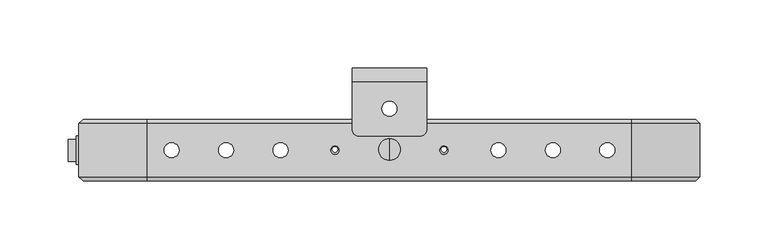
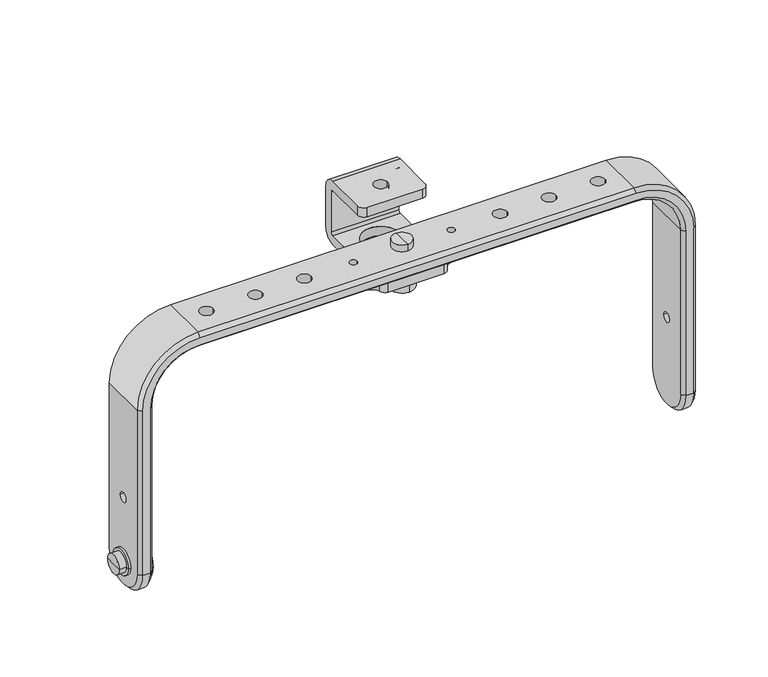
"""IFC4 building model written with IfcOpenShell, lengths in millimetres: proxy geometry, ePS8-HBRK425-CHM : ePS8-HBRK425-CHM."""

from ifc_helpers import new_model, si_unit, point, frame, origin, place, context, project, spatial, polyline, circle_curve, ellipse_curve, trimmed, source, transform, mapped, element, save
from ifc_brep_helpers import plane_surface, cylinder_surface, revolved_surface, advanced_brep


def generic_models_2b0026ec(model_context):
    return source(origin(), model_context, "Body", "AdvancedBrep", [
        advanced_brep(
        [(-216.0, -12.057585, -227.0012591), (-216.0, -48.942415, -227.0012591), (-216.0, -34.5553577, -227.0012591), (-216.0, -26.4446423, -227.0012591), (-213.0, -15.057585, -227.0012591), (-213.0, -45.942415, -227.0012591), (-213.0, -26.4446423, -227.0012591), (-213.0, -34.5553577, -227.0012591), (-212.0, -26.4446423, -227.0012591), (-212.0, -34.5553577, -227.0012591), (-212.0, -30.5, -227.0012591), (-236.0, -22.4249697, -227.0012591), (-236.0, -38.5750303, -227.0012591), (-236.0, -30.5, -227.0012591), (-230.0, -22.4249697, -227.0012591), (-230.0, -38.5750303, -227.0012591), (-230.0, -19.944078, -227.0012591), (-230.0, -41.055922, -227.0012591), (-228.0, -19.944078, -227.0012591), (-228.0, -41.055922, -227.0012591), (-228.0, -26.4446423, -227.0012591), (-228.0, -34.5553577, -227.0012591)],
        [
            (0, 1, circle_curve(frame((-216.0, -30.5, -227.0012591), z_axis=(-1.0, 0.0, 0.0), x_axis=(0.0, -1.0, 0.0)), 18.442415)),
            (1, 2),
            (2, 3, circle_curve(frame((-216.0, -30.5, -227.0012591), z_axis=(1.0, 0.0, 0.0), x_axis=(0.0, -1.0, 0.0)), 4.0553577)),
            (3, 0),
            (1, 0, circle_curve(frame((-216.0, -30.5, -227.0012591), z_axis=(-1.0, 0.0, 0.0), x_axis=(0.0, -1.0, 0.0)), 18.442415)),
            (3, 2, circle_curve(frame((-216.0, -30.5, -227.0012591), z_axis=(1.0, 0.0, 0.0), x_axis=(0.0, -1.0, 0.0)), 4.0553577)),
            (4, 5, circle_curve(frame((-213.0, -30.5, -227.0012591), z_axis=(-1.0, 0.0, 0.0), x_axis=(0.0, -1.0, 0.0)), 15.442415)),
            (5, 1, circle_curve(frame((-216.0, -45.942415, -227.0012591), z_axis=(0.0, 0.0, -1.0), x_axis=(1.0, 0.0, 0.0)), 3.0)),
            (0, 4, circle_curve(frame((-216.0, -15.057585, -227.0012591), z_axis=(0.0, 0.0, -1.0), x_axis=(1.0, 0.0, 0.0)), 3.0)),
            (5, 4, circle_curve(frame((-213.0, -30.5, -227.0012591), z_axis=(-1.0, 0.0, 0.0), x_axis=(0.0, -1.0, 0.0)), 15.442415)),
            (6, 7, circle_curve(frame((-213.0, -30.5, -227.0012591), z_axis=(-1.0, 0.0, 0.0), x_axis=(0.0, -1.0, 0.0)), 4.0553577)),
            (7, 5),
            (4, 6),
            (7, 6, circle_curve(frame((-213.0, -30.5, -227.0012591), z_axis=(-1.0, 0.0, 0.0), x_axis=(0.0, -1.0, 0.0)), 4.0553577)),
            (8, 9, circle_curve(frame((-212.0, -30.5, -227.0012591), z_axis=(-1.0, 0.0, 0.0), x_axis=(0.0, -1.0, 0.0)), 4.0553577)),
            (9, 7),
            (6, 8),
            (9, 8, circle_curve(frame((-212.0, -30.5, -227.0012591), z_axis=(-1.0, 0.0, 0.0), x_axis=(0.0, -1.0, 0.0)), 4.0553577)),
            (10, 9),
            (8, 10),
            (11, 12, circle_curve(frame((-236.0, -30.5, -227.0012591), z_axis=(-1.0, 0.0, 0.0), x_axis=(0.0, -1.0, 0.0)), 8.0750303)),
            (12, 13),
            (13, 11),
            (12, 11, circle_curve(frame((-236.0, -30.5, -227.0012591), z_axis=(-1.0, 0.0, 0.0), x_axis=(0.0, -1.0, 0.0)), 8.0750303)),
            (14, 15, circle_curve(frame((-230.0, -30.5, -227.0012591), z_axis=(-1.0, 0.0, 0.0), x_axis=(0.0, -1.0, 0.0)), 8.0750303)),
            (15, 12),
            (11, 14),
            (15, 14, circle_curve(frame((-230.0, -30.5, -227.0012591), z_axis=(-1.0, 0.0, 0.0), x_axis=(0.0, -1.0, 0.0)), 8.0750303)),
            (16, 17, circle_curve(frame((-230.0, -30.5, -227.0012591), z_axis=(-1.0, 0.0, 0.0), x_axis=(0.0, -1.0, 0.0)), 10.555922)),
            (17, 15),
            (14, 16),
            (17, 16, circle_curve(frame((-230.0, -30.5, -227.0012591), z_axis=(-1.0, 0.0, 0.0), x_axis=(0.0, -1.0, 0.0)), 10.555922)),
            (18, 19, circle_curve(frame((-228.0, -30.5, -227.0012591), z_axis=(-1.0, 0.0, 0.0), x_axis=(0.0, -1.0, 0.0)), 10.555922)),
            (19, 17),
            (16, 18),
            (19, 18, circle_curve(frame((-228.0, -30.5, -227.0012591), z_axis=(-1.0, 0.0, 0.0), x_axis=(0.0, -1.0, 0.0)), 10.555922)),
            (20, 21, circle_curve(frame((-228.0, -30.5, -227.0012591), z_axis=(-1.0, 0.0, 0.0), x_axis=(0.0, -1.0, 0.0)), 4.0553577)),
            (21, 19),
            (18, 20),
            (21, 20, circle_curve(frame((-228.0, -30.5, -227.0012591), z_axis=(-1.0, 0.0, 0.0), x_axis=(0.0, -1.0, 0.0)), 4.0553577)),
            (2, 21),
            (20, 3),
        ],
        [
            plane_surface(frame((-216.0, -30.5, -227.0012591), z_axis=(-1.0, 0.0, 0.0), x_axis=(0.0, -1.0, 0.0))),
            revolved_surface(trimmed(ellipse_curve(frame((-216.0, -45.942415, -227.0012591), z_axis=(0.0, 0.0, 1.0), x_axis=(1.0, 0.0, 0.0)), 3.0, 3.0), [point((-216.0, -48.942415, -227.0012591))], [point((-213.0, -45.942415, -227.0012591))], True, "CARTESIAN"), (-203.2578639, -30.5, -227.0012591), (1.0, 0.0, 0.0)),
            plane_surface(frame((-213.0, -30.5, -227.0012591), z_axis=(1.0, 0.0, 0.0), x_axis=(0.0, -1.0, 0.0))),
            cylinder_surface(frame((-203.2578639, -30.5, -227.0012591), z_axis=(1.0, 0.0, 0.0), x_axis=(0.0, -1.0, 0.0)), 4.0553577),
            plane_surface(frame((-212.0, -30.5, -227.0012591), z_axis=(1.0, 0.0, 0.0), x_axis=(0.0, -1.0, 0.0))),
            plane_surface(frame((-236.0, -30.5, -227.0012591), z_axis=(-1.0, 0.0, 0.0), x_axis=(0.0, -1.0, 0.0))),
            cylinder_surface(frame((-203.2578639, -30.5, -227.0012591), z_axis=(1.0, 0.0, 0.0), x_axis=(0.0, -1.0, 0.0)), 8.0750303),
            plane_surface(frame((-230.0, -30.5, -227.0012591), z_axis=(-1.0, 0.0, 0.0), x_axis=(0.0, -1.0, 0.0))),
            cylinder_surface(frame((-203.2578639, -30.5, -227.0012591), z_axis=(1.0, 0.0, 0.0), x_axis=(0.0, -1.0, 0.0)), 10.555922),
            plane_surface(frame((-228.0, -30.5, -227.0012591), z_axis=(1.0, 0.0, 0.0), x_axis=(0.0, -1.0, 0.0))),
        ],
        [
            (0, [[1, 2, 3, 4]]),
            (0, [[5, -4, 6, -2]]),
            (1, [[7, 8, -1, 9]]),
            (1, [[10, -9, -5, -8]]),
            (2, [[11, 12, -7, 13]]),
            (2, [[14, -13, -10, -12]]),
            (3, [[15, 16, -11, 17]]),
            (3, [[18, -17, -14, -16]]),
            (4, [[19, -15, 20]]),
            (4, [[-20, -18, -19]]),
            (5, [[21, 22, 23]]),
            (5, [[24, -23, -22]]),
            (6, [[25, 26, -21, 27]]),
            (6, [[28, -27, -24, -26]]),
            (7, [[29, 30, -25, 31]]),
            (7, [[32, -31, -28, -30]]),
            (8, [[33, 34, -29, 35]]),
            (8, [[36, -35, -32, -34]]),
            (9, [[37, 38, -33, 39]]),
            (9, [[40, -39, -36, -38]]),
            (3, [[-3, 41, -37, 42]]),
            (3, [[-6, -42, -40, -41]]),
        ],
    ),
        advanced_brep(
        [(228.0, -10.9281655, -227.0012591), (228.0, -10.9281655, -85.0), (228.0, -50.0718345, -85.0), (228.0, -50.0718345, -227.0012591), (228.0, -26.5, -172.0012591), (228.0, -34.5, -172.0012591), (225.0, -53.0718345, -85.0), (225.0, -53.0718345, -227.0012591), (178.0, -53.0718345, -38.0), (-178.0, -53.0718345, -38.0), (-225.0, -53.0718345, -85.0), (-225.0, -53.0718345, -227.0012591), (-219.0, -53.0718345, -227.0012591), (-219.0, -53.0718345, -85.0), (-178.0, -53.0718345, -44.0), (178.0, -53.0718345, -44.0), (219.0, -53.0718345, -85.0), (219.0, -53.0718345, -227.0012591), (216.0, -50.0718345, -85.0), (216.0, -50.0718345, -227.0012591), (216.0, -10.9281655, -85.0), (216.0, -10.9281655, -227.0012591), (216.0, -34.5, -172.0012591), (216.0, -26.5, -172.0012591), (178.0, -10.9281655, -35.0), (178.0, -50.0718345, -35.0), (178.0, -50.0718345, -47.0), (178.0, -10.9281655, -47.0), (-178.0, -10.9281655, -35.0), (-178.0, -50.0718345, -35.0), (5.5, -30.5, -35.0), (-5.5, -30.5, -35.0), (-154.5, -30.5, -35.0), (-165.5, -30.5, -35.0), (-37.0, -30.5, -35.0), (-43.0, -30.5, -35.0), (-114.5, -30.5, -35.0), (-125.5, -30.5, -35.0), (-74.5, -30.5, -35.0), (-85.5, -30.5, -35.0), (154.5, -30.5, -35.0), (165.5, -30.5, -35.0), (37.0, -30.5, -35.0), (43.0, -30.5, -35.0), (114.5, -30.5, -35.0), (125.5, -30.5, -35.0), (74.5, -30.5, -35.0), (85.5, -30.5, -35.0), (-178.0, -50.0718345, -47.0), (-178.0, -10.9281655, -47.0), (-5.5, -30.5, -47.0), (5.5, -30.5, -47.0), (-165.5, -30.5, -47.0), (-154.5, -30.5, -47.0), (-43.0, -30.5, -47.0), (-37.0, -30.5, -47.0), (-125.5, -30.5, -47.0), (-114.5, -30.5, -47.0), (-85.5, -30.5, -47.0), (-74.5, -30.5, -47.0), (165.5, -30.5, -47.0), (154.5, -30.5, -47.0), (43.0, -30.5, -47.0), (37.0, -30.5, -47.0), (125.5, -30.5, -47.0), (114.5, -30.5, -47.0), (85.5, -30.5, -47.0), (74.5, -30.5, -47.0), (-228.0, -10.9281655, -85.0), (-228.0, -50.0718345, -85.0), (-216.0, -50.0718345, -85.0), (-216.0, -10.9281655, -85.0), (-228.0, -10.9281655, -227.0012591), (-228.0, -50.0718345, -227.0012591), (-228.0, -34.5, -172.0012591), (-228.0, -26.5, -172.0012591), (-216.0, -50.0718345, -227.0012591), (-216.0, -10.9281655, -227.0012591), (-216.0, -26.5, -172.0012591), (-216.0, -34.5, -172.0012591), (219.0, -7.9281655, -85.0), (219.0, -7.9281655, -227.0012591), (178.0, -7.9281655, -44.0), (-178.0, -7.9281655, -44.0), (-219.0, -7.9281655, -85.0), (-219.0, -7.9281655, -227.0012591), (-225.0, -7.9281655, -227.0012591), (-225.0, -7.9281655, -85.0), (-178.0, -7.9281655, -38.0), (178.0, -7.9281655, -38.0), (225.0, -7.9281655, -85.0), (225.0, -7.9281655, -227.0012591)],
        [
            (0, 1),
            (1, 2),
            (2, 3),
            (3, 0, circle_curve(frame((228.0, -30.5, -227.0012591), z_axis=(1.0, 0.0, 0.0), x_axis=(0.0, -1.0, 0.0)), 19.5718345)),
            (4, 5, circle_curve(frame((228.0, -30.5, -172.0012591), z_axis=(-1.0, 0.0, 0.0), x_axis=(0.0, 1.0, 0.0)), 4.0)),
            (5, 4, circle_curve(frame((228.0, -30.5, -172.0012591), z_axis=(-1.0, 0.0, 0.0), x_axis=(0.0, 1.0, 0.0)), 4.0)),
            (2, 6),
            (6, 7),
            (7, 3),
            (6, 8, circle_curve(frame((178.0, -53.0718345, -85.0), z_axis=(0.0, -1.0, 0.0), x_axis=(1.0, 0.0, 0.0)), 47.0)),
            (8, 9),
            (9, 10, circle_curve(frame((-178.0, -53.0718345, -85.0), z_axis=(0.0, -1.0, 0.0), x_axis=(0.0, 0.0, 1.0)), 47.0)),
            (10, 11),
            (11, 12),
            (12, 13),
            (13, 14, circle_curve(frame((-178.0, -53.0718345, -85.0), z_axis=(0.0, 1.0, 0.0), x_axis=(0.0, 0.0, 1.0)), 41.0)),
            (14, 15),
            (15, 16, circle_curve(frame((178.0, -53.0718345, -85.0), z_axis=(0.0, 1.0, 0.0), x_axis=(1.0, 0.0, 0.0)), 41.0)),
            (16, 17),
            (17, 7),
            (16, 18),
            (18, 19),
            (19, 17),
            (18, 20),
            (20, 21),
            (21, 19, circle_curve(frame((216.0, -30.5, -227.0012591), z_axis=(-1.0, 0.0, 0.0), x_axis=(0.0, -1.0, 0.0)), 19.5718345)),
            (22, 23, circle_curve(frame((216.0, -30.5, -172.0012591), z_axis=(1.0, 0.0, 0.0), x_axis=(0.0, 1.0, 0.0)), 4.0)),
            (23, 22, circle_curve(frame((216.0, -30.5, -172.0012591), z_axis=(1.0, 0.0, 0.0), x_axis=(0.0, 1.0, 0.0)), 4.0)),
            (1, 24, circle_curve(frame((178.0, -10.9281655, -85.0), z_axis=(0.0, -1.0, 0.0), x_axis=(1.0, 0.0, 0.0)), 50.0)),
            (24, 25),
            (25, 2, circle_curve(frame((178.0, -50.0718345, -85.0), z_axis=(0.0, 1.0, 0.0), x_axis=(1.0, 0.0, 0.0)), 50.0)),
            (25, 8),
            (15, 26),
            (26, 18, circle_curve(frame((178.0, -50.0718345, -85.0), z_axis=(0.0, 1.0, 0.0), x_axis=(1.0, 0.0, 0.0)), 38.0)),
            (26, 27),
            (27, 20, circle_curve(frame((178.0, -10.9281655, -85.0), z_axis=(0.0, 1.0, 0.0), x_axis=(1.0, 0.0, 0.0)), 38.0)),
            (24, 28),
            (28, 29),
            (29, 25),
            (30, 31, circle_curve(frame((0.0, -30.5, -35.0), z_axis=(0.0, 0.0, -1.0), x_axis=(1.0, 0.0, 0.0)), 5.5)),
            (31, 30, circle_curve(frame((0.0, -30.5, -35.0), z_axis=(0.0, 0.0, -1.0), x_axis=(1.0, 0.0, 0.0)), 5.5)),
            (32, 33, circle_curve(frame((-160.0, -30.5, -35.0), z_axis=(0.0, 0.0, -1.0), x_axis=(1.0, 0.0, 0.0)), 5.5)),
            (33, 32, circle_curve(frame((-160.0, -30.5, -35.0), z_axis=(0.0, 0.0, -1.0), x_axis=(1.0, 0.0, 0.0)), 5.5)),
            (34, 35, circle_curve(frame((-40.0, -30.5, -35.0), z_axis=(0.0, 0.0, -1.0), x_axis=(1.0, 0.0, 0.0)), 3.0)),
            (35, 34, circle_curve(frame((-40.0, -30.5, -35.0), z_axis=(0.0, 0.0, -1.0), x_axis=(1.0, 0.0, 0.0)), 3.0)),
            (36, 37, circle_curve(frame((-120.0, -30.5, -35.0), z_axis=(0.0, 0.0, -1.0), x_axis=(1.0, 0.0, 0.0)), 5.5)),
            (37, 36, circle_curve(frame((-120.0, -30.5, -35.0), z_axis=(0.0, 0.0, -1.0), x_axis=(1.0, 0.0, 0.0)), 5.5)),
            (38, 39, circle_curve(frame((-80.0, -30.5, -35.0), z_axis=(0.0, 0.0, -1.0), x_axis=(1.0, 0.0, 0.0)), 5.5)),
            (39, 38, circle_curve(frame((-80.0, -30.5, -35.0), z_axis=(0.0, 0.0, -1.0), x_axis=(1.0, 0.0, 0.0)), 5.5)),
            (40, 41, circle_curve(frame((160.0, -30.5, -35.0), z_axis=(0.0, 0.0, -1.0), x_axis=(-1.0, 0.0, 0.0)), 5.5)),
            (41, 40, circle_curve(frame((160.0, -30.5, -35.0), z_axis=(0.0, 0.0, -1.0), x_axis=(-1.0, 0.0, 0.0)), 5.5)),
            (42, 43, circle_curve(frame((40.0, -30.5, -35.0), z_axis=(0.0, 0.0, -1.0), x_axis=(-1.0, 0.0, 0.0)), 3.0)),
            (43, 42, circle_curve(frame((40.0, -30.5, -35.0), z_axis=(0.0, 0.0, -1.0), x_axis=(-1.0, 0.0, 0.0)), 3.0)),
            (44, 45, circle_curve(frame((120.0, -30.5, -35.0), z_axis=(0.0, 0.0, -1.0), x_axis=(-1.0, 0.0, 0.0)), 5.5)),
            (45, 44, circle_curve(frame((120.0, -30.5, -35.0), z_axis=(0.0, 0.0, -1.0), x_axis=(-1.0, 0.0, 0.0)), 5.5)),
            (46, 47, circle_curve(frame((80.0, -30.5, -35.0), z_axis=(0.0, 0.0, -1.0), x_axis=(-1.0, 0.0, 0.0)), 5.5)),
            (47, 46, circle_curve(frame((80.0, -30.5, -35.0), z_axis=(0.0, 0.0, -1.0), x_axis=(-1.0, 0.0, 0.0)), 5.5)),
            (29, 9),
            (14, 48),
            (48, 26),
            (48, 49),
            (49, 27),
            (50, 51, circle_curve(frame((0.0, -30.5, -47.0), z_axis=(0.0, 0.0, 1.0), x_axis=(1.0, 0.0, 0.0)), 5.5)),
            (51, 50, circle_curve(frame((0.0, -30.5, -47.0), z_axis=(0.0, 0.0, 1.0), x_axis=(1.0, 0.0, 0.0)), 5.5)),
            (52, 53, circle_curve(frame((-160.0, -30.5, -47.0), z_axis=(0.0, 0.0, 1.0), x_axis=(1.0, 0.0, 0.0)), 5.5)),
            (53, 52, circle_curve(frame((-160.0, -30.5, -47.0), z_axis=(0.0, 0.0, 1.0), x_axis=(1.0, 0.0, 0.0)), 5.5)),
            (54, 55, circle_curve(frame((-40.0, -30.5, -47.0), z_axis=(0.0, 0.0, 1.0), x_axis=(1.0, 0.0, 0.0)), 3.0)),
            (55, 54, circle_curve(frame((-40.0, -30.5, -47.0), z_axis=(0.0, 0.0, 1.0), x_axis=(1.0, 0.0, 0.0)), 3.0)),
            (56, 57, circle_curve(frame((-120.0, -30.5, -47.0), z_axis=(0.0, 0.0, 1.0), x_axis=(1.0, 0.0, 0.0)), 5.5)),
            (57, 56, circle_curve(frame((-120.0, -30.5, -47.0), z_axis=(0.0, 0.0, 1.0), x_axis=(1.0, 0.0, 0.0)), 5.5)),
            (58, 59, circle_curve(frame((-80.0, -30.5, -47.0), z_axis=(0.0, 0.0, 1.0), x_axis=(1.0, 0.0, 0.0)), 5.5)),
            (59, 58, circle_curve(frame((-80.0, -30.5, -47.0), z_axis=(0.0, 0.0, 1.0), x_axis=(1.0, 0.0, 0.0)), 5.5)),
            (60, 61, circle_curve(frame((160.0, -30.5, -47.0), z_axis=(0.0, 0.0, 1.0), x_axis=(-1.0, 0.0, 0.0)), 5.5)),
            (61, 60, circle_curve(frame((160.0, -30.5, -47.0), z_axis=(0.0, 0.0, 1.0), x_axis=(-1.0, 0.0, 0.0)), 5.5)),
            (62, 63, circle_curve(frame((40.0, -30.5, -47.0), z_axis=(0.0, 0.0, 1.0), x_axis=(-1.0, 0.0, 0.0)), 3.0)),
            (63, 62, circle_curve(frame((40.0, -30.5, -47.0), z_axis=(0.0, 0.0, 1.0), x_axis=(-1.0, 0.0, 0.0)), 3.0)),
            (64, 65, circle_curve(frame((120.0, -30.5, -47.0), z_axis=(0.0, 0.0, 1.0), x_axis=(-1.0, 0.0, 0.0)), 5.5)),
            (65, 64, circle_curve(frame((120.0, -30.5, -47.0), z_axis=(0.0, 0.0, 1.0), x_axis=(-1.0, 0.0, 0.0)), 5.5)),
            (66, 67, circle_curve(frame((80.0, -30.5, -47.0), z_axis=(0.0, 0.0, 1.0), x_axis=(-1.0, 0.0, 0.0)), 5.5)),
            (67, 66, circle_curve(frame((80.0, -30.5, -47.0), z_axis=(0.0, 0.0, 1.0), x_axis=(-1.0, 0.0, 0.0)), 5.5)),
            (28, 68, circle_curve(frame((-178.0, -10.9281655, -85.0), z_axis=(0.0, -1.0, 0.0), x_axis=(0.0, 0.0, 1.0)), 50.0)),
            (68, 69),
            (69, 29, circle_curve(frame((-178.0, -50.0718345, -85.0), z_axis=(0.0, 1.0, 0.0), x_axis=(0.0, 0.0, 1.0)), 50.0)),
            (69, 10),
            (13, 70),
            (70, 48, circle_curve(frame((-178.0, -50.0718345, -85.0), z_axis=(0.0, 1.0, 0.0), x_axis=(0.0, 0.0, 1.0)), 38.0)),
            (70, 71),
            (71, 49, circle_curve(frame((-178.0, -10.9281655, -85.0), z_axis=(0.0, 1.0, 0.0), x_axis=(0.0, 0.0, 1.0)), 38.0)),
            (68, 72),
            (72, 73, circle_curve(frame((-228.0, -30.5, -227.0012591), z_axis=(-1.0, 0.0, 0.0), x_axis=(0.0, -1.0, 0.0)), 19.5718345)),
            (73, 69),
            (74, 75, circle_curve(frame((-228.0, -30.5, -172.0012591), z_axis=(1.0, 0.0, 0.0), x_axis=(0.0, 1.0, 0.0)), 4.0)),
            (75, 74, circle_curve(frame((-228.0, -30.5, -172.0012591), z_axis=(1.0, 0.0, 0.0), x_axis=(0.0, 1.0, 0.0)), 4.0)),
            (73, 11),
            (12, 76),
            (76, 70),
            (76, 77, circle_curve(frame((-216.0, -30.5, -227.0012591), z_axis=(1.0, 0.0, 0.0), x_axis=(0.0, -1.0, 0.0)), 19.5718345)),
            (77, 71),
            (78, 79, circle_curve(frame((-216.0, -30.5, -172.0012591), z_axis=(-1.0, 0.0, 0.0), x_axis=(0.0, 1.0, 0.0)), 4.0)),
            (79, 78, circle_curve(frame((-216.0, -30.5, -172.0012591), z_axis=(-1.0, 0.0, 0.0), x_axis=(0.0, 1.0, 0.0)), 4.0)),
            (20, 80),
            (80, 81),
            (81, 21),
            (80, 82, circle_curve(frame((178.0, -7.9281655, -85.0), z_axis=(0.0, -1.0, 0.0), x_axis=(1.0, 0.0, 0.0)), 41.0)),
            (82, 83),
            (83, 84, circle_curve(frame((-178.0, -7.9281655, -85.0), z_axis=(0.0, -1.0, 0.0), x_axis=(0.0, 0.0, 1.0)), 41.0)),
            (84, 85),
            (85, 86),
            (86, 87),
            (87, 88, circle_curve(frame((-178.0, -7.9281655, -85.0), z_axis=(0.0, 1.0, 0.0), x_axis=(0.0, 0.0, 1.0)), 47.0)),
            (88, 89),
            (89, 90, circle_curve(frame((178.0, -7.9281655, -85.0), z_axis=(0.0, 1.0, 0.0), x_axis=(1.0, 0.0, 0.0)), 47.0)),
            (90, 91),
            (91, 81),
            (0, 91),
            (90, 1),
            (27, 82),
            (89, 24),
            (49, 83),
            (88, 28),
            (71, 84),
            (87, 68),
            (77, 85),
            (86, 72),
            (85, 12, circle_curve(frame((-219.0, -30.5, -227.0012591), z_axis=(-1.0, 0.0, 0.0), x_axis=(0.0, -1.0, 0.0)), 22.5718345)),
            (11, 86, circle_curve(frame((-225.0, -30.5, -227.0012591), z_axis=(1.0, 0.0, 0.0), x_axis=(0.0, -1.0, 0.0)), 22.5718345)),
            (91, 7, circle_curve(frame((225.0, -30.5, -227.0012591), z_axis=(-1.0, 0.0, 0.0), x_axis=(0.0, -1.0, 0.0)), 22.5718345)),
            (17, 81, circle_curve(frame((219.0, -30.5, -227.0012591), z_axis=(1.0, 0.0, 0.0), x_axis=(0.0, -1.0, 0.0)), 22.5718345)),
            (50, 31),
            (30, 51),
            (52, 33),
            (32, 53),
            (54, 35),
            (34, 55),
            (56, 37),
            (36, 57),
            (58, 39),
            (38, 59),
            (60, 41),
            (40, 61),
            (62, 43),
            (42, 63),
            (64, 45),
            (44, 65),
            (66, 47),
            (46, 67),
            (22, 5),
            (4, 23),
            (74, 79),
            (78, 75),
        ],
        [
            plane_surface(frame((228.0, -10.9281655, -227.0012591), z_axis=(1.0, 0.0, 0.0), x_axis=(0.0, 0.0, 1.0))),
            plane_surface(frame((228.0, -50.0718345, -227.0012591), z_axis=(0.7071067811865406, -0.7071067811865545, 0.0), x_axis=(0.0, 0.0, 1.0))),
            plane_surface(frame((225.0, -53.0718345, -227.0012591), z_axis=(0.0, -1.0, 0.0), x_axis=(0.0, 0.0, 1.0))),
            plane_surface(frame((219.0, -53.0718345, -227.0012591), z_axis=(-0.707106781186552, -0.707106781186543, 0.0), x_axis=(0.0, 0.0, 1.0))),
            plane_surface(frame((216.0, -50.0718345, -227.0012591), z_axis=(-1.0, 0.0, 0.0), x_axis=(0.0, 0.0, 1.0))),
            cylinder_surface(frame((178.0, -30.5, -85.0), z_axis=(0.0, -1.0, 0.0), x_axis=(1.0, 0.0, 0.0)), 50.0),
            revolved_surface(polyline([(228.0, -50.0718345, -85.0), (225.0, -53.0718345, -85.0)]), (178.0, -30.5, -85.0), (0.0, -1.0, 0.0)),
            revolved_surface(polyline([(219.0, -53.0718345, -85.0), (216.0, -50.0718345, -85.0)]), (178.0, -30.5, -85.0), (0.0, -1.0, 0.0)),
            revolved_surface(polyline([(216.0, -50.0718345, -85.0), (216.0, -10.928165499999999, -85.0)]), (178.0, -30.5, -85.0), (0.0, -1.0, 0.0)),
            plane_surface(frame((178.0, -10.9281655, -35.0), z_axis=(0.0, 0.0, 1.0), x_axis=(-1.0, 0.0, 0.0))),
            plane_surface(frame((178.0, -50.0718345, -35.0), z_axis=(0.0, -0.7071067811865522, 0.7071067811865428), x_axis=(-1.0, 0.0, 0.0))),
            plane_surface(frame((178.0, -53.0718345, -44.0), z_axis=(0.0, -0.7071067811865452, -0.7071067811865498), x_axis=(-1.0, 0.0, 0.0))),
            plane_surface(frame((178.0, -50.0718345, -47.0), z_axis=(0.0, 0.0, -1.0), x_axis=(-1.0, 0.0, 0.0))),
            cylinder_surface(frame((-178.0, -30.5, -85.0), z_axis=(0.0, -1.0, 0.0), x_axis=(0.0, 0.0, 1.0)), 50.0),
            revolved_surface(polyline([(-178.0, -50.0718345, -35.0), (-178.0, -53.0718345, -38.0)]), (-178.0, -30.5, -85.0), (0.0, -1.0, 0.0)),
            revolved_surface(polyline([(-178.0, -53.0718345, -44.0), (-178.0, -50.0718345, -47.0)]), (-178.0, -30.5, -85.0), (0.0, -1.0, 0.0)),
            revolved_surface(polyline([(-178.0, -50.0718345, -47.0), (-178.0, -10.928165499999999, -47.0)]), (-178.0, -30.5, -85.0), (0.0, -1.0, 0.0)),
            plane_surface(frame((-228.0, -10.9281655, -85.0), z_axis=(-1.0, 0.0, 0.0), x_axis=(0.0, 0.0, -1.0))),
            plane_surface(frame((-228.0, -50.0718345, -85.0), z_axis=(-0.707106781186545, -0.70710678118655, 0.0), x_axis=(0.0, 0.0, -1.0))),
            plane_surface(frame((-219.0, -53.0718345, -85.0), z_axis=(0.7071067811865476, -0.7071067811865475, 0.0), x_axis=(0.0, 0.0, -1.0))),
            plane_surface(frame((-216.0, -50.0718345, -85.0), z_axis=(1.0, 0.0, 0.0), x_axis=(0.0, 0.0, -1.0))),
            plane_surface(frame((216.0, -10.9281655, -227.0012591), z_axis=(-0.7071067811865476, 0.7071067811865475, 0.0), x_axis=(0.0, 0.0, 1.0))),
            plane_surface(frame((219.0, -7.9281655, -227.0012591), z_axis=(0.0, 1.0, 0.0), x_axis=(0.0, 0.0, 1.0))),
            plane_surface(frame((225.0, -7.9281655, -227.0012591), z_axis=(0.707106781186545, 0.70710678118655, 0.0), x_axis=(0.0, 0.0, 1.0))),
            revolved_surface(polyline([(216.0, -10.9281655, -85.0), (219.0, -7.9281655, -85.0)]), (178.0, -30.5, -85.0), (0.0, -1.0, 0.0)),
            revolved_surface(polyline([(225.0, -7.9281655, -85.0), (228.0, -10.9281655, -85.0)]), (178.0, -30.5, -85.0), (0.0, -1.0, 0.0)),
            plane_surface(frame((178.0, -10.9281655, -47.0), z_axis=(0.0, 0.7071067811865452, -0.7071067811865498), x_axis=(-1.0, 0.0, 0.0))),
            plane_surface(frame((178.0, -7.9281655, -38.0), z_axis=(0.0, 0.7071067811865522, 0.7071067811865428), x_axis=(-1.0, 0.0, 0.0))),
            revolved_surface(polyline([(-178.0, -10.9281655, -47.0), (-178.0, -7.9281655, -44.0)]), (-178.0, -30.5, -85.0), (0.0, -1.0, 0.0)),
            revolved_surface(polyline([(-178.0, -7.9281655, -38.0), (-178.0, -10.9281655, -35.0)]), (-178.0, -30.5, -85.0), (0.0, -1.0, 0.0)),
            plane_surface(frame((-216.0, -10.9281655, -85.0), z_axis=(0.707106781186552, 0.707106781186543, 0.0), x_axis=(0.0, 0.0, -1.0))),
            plane_surface(frame((-225.0, -7.9281655, -85.0), z_axis=(-0.7071067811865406, 0.7071067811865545, 0.0), x_axis=(0.0, 0.0, -1.0))),
            cylinder_surface(frame((1971.5, -30.5, -227.0012591), z_axis=(1.0, 0.0, 0.0), x_axis=(0.0, -1.0, 0.0)), 22.5718345),
            revolved_surface(polyline([(-219.0, -53.0718345, -227.0012591), (-216.0, -50.0718345, -227.0012591)]), (1971.5, -30.5, -227.0012591), (1.0, 0.0, 0.0)),
            revolved_surface(polyline([(-228.0, -50.0718345, -227.0012591), (-225.0, -53.0718345, -227.0012591)]), (1971.5, -30.5, -227.0012591), (1.0, 0.0, 0.0)),
            cylinder_surface(frame((-1971.5, -30.5, -227.0012591), z_axis=(1.0, 0.0, 0.0), x_axis=(0.0, -1.0, 0.0)), 22.5718345),
            revolved_surface(polyline([(216.0, -50.0718345, -227.0012591), (219.0, -53.0718345, -227.0012591)]), (-1971.5, -30.5, -227.0012591), (1.0, 0.0, 0.0)),
            revolved_surface(polyline([(225.0, -53.0718345, -227.0012591), (228.0, -50.0718345, -227.0012591)]), (-1971.5, -30.5, -227.0012591), (1.0, 0.0, 0.0)),
            revolved_surface(polyline([(5.5, -30.5, -35.0), (5.5, -30.5, -47.0)]), (0.0, -30.5, -55.0), (0.0, 0.0, 1.0)),
            revolved_surface(polyline([(-154.5, -30.5, -35.0), (-154.5, -30.5, -47.0)]), (-160.0, -30.5, -35.0), (0.0, 0.0, 1.0)),
            revolved_surface(polyline([(-37.0, -30.5, -35.0), (-37.0, -30.5, -47.0)]), (-40.0, -30.5, -35.0), (0.0, 0.0, 1.0)),
            revolved_surface(polyline([(-114.5, -30.5, -35.0), (-114.5, -30.5, -47.0)]), (-120.0, -30.5, -35.0), (0.0, 0.0, 1.0)),
            revolved_surface(polyline([(-74.5, -30.5, -35.0), (-74.5, -30.5, -47.0)]), (-80.0, -30.5, -35.0), (0.0, 0.0, 1.0)),
            revolved_surface(polyline([(154.5, -30.5, -35.0), (154.5, -30.5, -47.0)]), (160.0, -30.5, -35.0), (0.0, 0.0, 1.0)),
            revolved_surface(polyline([(37.0, -30.5, -35.0), (37.0, -30.5, -47.0)]), (40.0, -30.5, -35.0), (0.0, 0.0, 1.0)),
            revolved_surface(polyline([(114.5, -30.5, -35.0), (114.5, -30.5, -47.0)]), (120.0, -30.5, -35.0), (0.0, 0.0, 1.0)),
            revolved_surface(polyline([(74.5, -30.5, -35.0), (74.5, -30.5, -47.0)]), (80.0, -30.5, -35.0), (0.0, 0.0, 1.0)),
            revolved_surface(polyline([(228.0, -26.5, -172.0012591), (216.0, -26.5, -172.0012591)]), (-235.0, -30.5, -172.0012591), (1.0, 0.0, 0.0)),
            revolved_surface(polyline([(-216.0, -26.5, -172.0012591), (-228.0, -26.5, -172.0012591)]), (-235.0, -30.5, -172.0012591), (1.0, 0.0, 0.0)),
        ],
        [
            (0, [[1, 2, 3, 4], [5, 6]]),
            (1, [[-3, 7, 8, 9]]),
            (2, [[-8, 10, 11, 12, 13, 14, 15, 16, 17, 18, 19, 20]]),
            (3, [[-19, 21, 22, 23]]),
            (4, [[-22, 24, 25, 26], [27, 28]]),
            (5, [[-2, 29, 30, 31]]),
            (6, [[-7, -31, 32, -10]]),
            (7, [[-18, 33, 34, -21]]),
            (8, [[-24, -34, 35, 36]]),
            (9, [[-30, 37, 38, 39], [40, 41], [42, 43], [44, 45], [46, 47], [48, 49], [50, 51], [52, 53], [54, 55], [56, 57]]),
            (10, [[-11, -32, -39, 58]]),
            (11, [[-17, 59, 60, -33]]),
            (12, [[-35, -60, 61, 62], [63, 64], [65, 66], [67, 68], [69, 70], [71, 72], [73, 74], [75, 76], [77, 78], [79, 80]]),
            (13, [[-38, 81, 82, 83]]),
            (14, [[-12, -58, -83, 84]]),
            (15, [[-16, 85, 86, -59]]),
            (16, [[-61, -86, 87, 88]]),
            (17, [[-82, 89, 90, 91], [92, 93]]),
            (18, [[-13, -84, -91, 94]]),
            (19, [[-15, 95, 96, -85]]),
            (20, [[-87, -96, 97, 98], [99, 100]]),
            (21, [[-25, 101, 102, 103]]),
            (22, [[-102, 104, 105, 106, 107, 108, 109, 110, 111, 112, 113, 114]]),
            (23, [[-1, 115, -113, 116]]),
            (24, [[-36, 117, -104, -101]]),
            (25, [[-29, -116, -112, 118]]),
            (26, [[-62, 119, -105, -117]]),
            (27, [[-37, -118, -111, 120]]),
            (28, [[-88, 121, -106, -119]]),
            (29, [[-81, -120, -110, 122]]),
            (30, [[-98, 123, -107, -121]]),
            (31, [[-89, -122, -109, 124]]),
            (32, [[125, -14, 126, -108]]),
            (33, [[-125, -123, -97, -95]]),
            (34, [[-126, -94, -90, -124]]),
            (35, [[127, -20, 128, -114]]),
            (36, [[-128, -23, -26, -103]]),
            (37, [[-127, -115, -4, -9]]),
            (38, [[129, -40, 130, -63]]),
            (38, [[-129, -64, -130, -41]]),
            (39, [[131, -42, 132, -65]]),
            (39, [[-131, -66, -132, -43]]),
            (40, [[133, -44, 134, -67]]),
            (40, [[-133, -68, -134, -45]]),
            (41, [[135, -46, 136, -69]]),
            (41, [[-135, -70, -136, -47]]),
            (42, [[137, -48, 138, -71]]),
            (42, [[-137, -72, -138, -49]]),
            (43, [[139, -50, 140, -73]]),
            (43, [[-139, -74, -140, -51]]),
            (44, [[141, -52, 142, -75]]),
            (44, [[-141, -76, -142, -53]]),
            (45, [[143, -54, 144, -77]]),
            (45, [[-143, -78, -144, -55]]),
            (46, [[145, -56, 146, -79]]),
            (46, [[-145, -80, -146, -57]]),
            (47, [[147, -5, 148, -27]]),
            (48, [[149, -99, 150, -92]]),
            (47, [[-147, -28, -148, -6]]),
            (48, [[-149, -93, -150, -100]]),
        ],
    ),
        advanced_brep(
        [(-27.5, 20.0220326, -55.0), (27.5, 20.0220326, -55.0), (27.5, -9.9779674, -55.0), (37.5, -19.9779674, -55.0), (42.5, -19.9779674, -55.0), (42.5, -39.9779674, -55.0), (36.6421356, -39.9779674, -55.0), (26.9417827, -47.2877077, -55.0), (22.545369, -49.9781759, -55.0), (-22.590738, -49.9779674, -55.0), (-27.3678633, -46.0992499, -55.0), (-36.6421356, -39.9779674, -55.0), (-42.5, -39.9779674, -55.0), (-42.5, -19.9779674, -55.0), (-37.5, -19.9779674, -55.0), (-27.5, -9.9779674, -55.0), (-42.0082653, -29.9779674, -55.0), (-38.0082653, -29.9779674, -55.0), (42.0082653, -29.9779674, -55.0), (38.0082653, -29.9779674, -55.0), (1.5, -24.4779674, -55.0), (-1.5, -24.4779674, -55.0), (-1.5, -35.4779674, -55.0), (1.5, -35.4779674, -55.0), (-15.0, 0.0, -55.0), (15.0, 0.0, -55.0), (-27.5, 30.0220326, -45.0), (27.5, 30.0220326, -45.0), (-27.5, 30.0220326, -10.0), (27.5, 30.0220326, -10.0), (-27.5, 20.0220326, 0.0), (27.5, 20.0220326, 0.0), (-27.5, -14.9779674, 0.0), (-22.5, -19.9779674, 0.0), (22.5, -19.9779674, 0.0), (27.5, -14.9779674, 0.0), (5.5, 0.0, 0.0), (-5.5, 0.0, 0.0), (-22.5, -19.9779674, -8.0), (22.5, -19.9779674, -8.0), (-27.5, -14.9779674, -8.0), (-27.5, 20.0220326, -8.0), (27.5, 20.0220326, -8.0), (27.5, -14.9779674, -8.0), (-5.5, 0.0, -8.0), (5.5, 0.0, -8.0), (-27.5, 22.0220326, -10.0), (27.5, 22.0220326, -10.0), (-27.5, 22.0220326, -45.0), (27.5, 22.0220326, -45.0), (-27.5, 20.0220326, -47.0), (27.5, 20.0220326, -47.0), (-27.5, -9.9779674, -47.0), (-37.5, -19.9779674, -47.0), (-42.5, -19.9779674, -47.0), (-42.5, -39.9779674, -47.0), (-36.6421356, -39.9779674, -47.0), (-27.3678633, -46.0992499, -47.0), (-22.545369, -49.9781759, -47.0), (22.590738, -49.9779674, -47.0), (26.9417827, -47.2877077, -47.0), (36.6421356, -39.9779674, -47.0), (42.5, -39.9779674, -47.0), (42.5, -19.9779674, -47.0), (37.5, -19.9779674, -47.0), (27.5, -9.9779674, -47.0), (-38.0082653, -29.9779674, -47.0), (-42.0082653, -29.9779674, -47.0), (38.0082653, -29.9779674, -47.0), (42.0082653, -29.9779674, -47.0), (-1.5, -24.4779674, -47.0), (1.5, -24.4779674, -47.0), (1.5, -35.4779674, -47.0), (-1.5, -35.4779674, -47.0), (15.0, 0.0, -47.0), (-15.0, 0.0, -47.0)],
        [
            (0, 1),
            (1, 2),
            (2, 3, circle_curve(frame((37.5, -9.9779674, -55.0), z_axis=(0.0, 0.0, 1.0), x_axis=(-1.0, 0.0, 0.0)), 10.0)),
            (3, 4),
            (4, 5, circle_curve(frame((42.5, -29.9779674, -55.0), z_axis=(0.0, 0.0, -1.0), x_axis=(-1.0, 0.0, 0.0)), 10.0)),
            (5, 6),
            (6, 7, circle_curve(frame((36.6685563, -50.1043005, -55.0), z_axis=(0.0, 0.0, 1.0), x_axis=(-1.0, 0.0, 0.0)), 10.1263676)),
            (7, 8, circle_curve(frame((22.545369, -45.0409177, -55.0), z_axis=(0.0, 0.0, -1.0), x_axis=(-1.0, 0.0, 0.0)), 4.9372582)),
            (8, 9),
            (9, 10, circle_curve(frame((-22.545369, -45.0409177, -55.0), z_axis=(0.0, 0.0, -1.0), x_axis=(1.0, 0.0, 0.0)), 4.9372582)),
            (10, 11, circle_curve(frame((-36.6685563, -50.1043005, -55.0), z_axis=(0.0, 0.0, 1.0), x_axis=(1.0, 0.0, 0.0)), 10.1263676)),
            (11, 12),
            (12, 13, circle_curve(frame((-42.5, -29.9779674, -55.0), z_axis=(0.0, 0.0, -1.0), x_axis=(1.0, 0.0, 0.0)), 10.0)),
            (13, 14),
            (14, 15, circle_curve(frame((-37.5, -9.9779674, -55.0), z_axis=(0.0, 0.0, 1.0), x_axis=(1.0, 0.0, 0.0)), 10.0)),
            (15, 0),
            (16, 17, circle_curve(frame((-40.0082653, -29.9779674, -55.0), z_axis=(0.0, 0.0, 1.0), x_axis=(1.0, 0.0, 0.0)), 2.0)),
            (17, 16, circle_curve(frame((-40.0082653, -29.9779674, -55.0), z_axis=(0.0, 0.0, 1.0), x_axis=(1.0, 0.0, 0.0)), 2.0)),
            (18, 19, circle_curve(frame((40.0082653, -29.9779674, -55.0), z_axis=(0.0, 0.0, 1.0), x_axis=(-1.0, 0.0, 0.0)), 2.0)),
            (19, 18, circle_curve(frame((40.0082653, -29.9779674, -55.0), z_axis=(0.0, 0.0, 1.0), x_axis=(-1.0, 0.0, 0.0)), 2.0)),
            (20, 21),
            (21, 22, circle_curve(frame((-1.5, -29.9779674, -55.0), z_axis=(0.0, 0.0, 1.0), x_axis=(1.0, 0.0, 0.0)), 5.5)),
            (22, 23),
            (23, 20, circle_curve(frame((1.5, -29.9779674, -55.0), z_axis=(0.0, 0.0, 1.0), x_axis=(1.0, 0.0, 0.0)), 5.5)),
            (24, 25, circle_curve(frame((0.0, 0.0, -55.0), z_axis=(0.0, 0.0, 1.0), x_axis=(1.0, 0.0, 0.0)), 15.0)),
            (25, 24, circle_curve(frame((0.0, 0.0, -55.0), z_axis=(0.0, 0.0, 1.0), x_axis=(1.0, 0.0, 0.0)), 15.0)),
            (0, 26, circle_curve(frame((-27.5, 20.0220326, -45.0), z_axis=(1.0, 0.0, 0.0), x_axis=(0.0, 1.0, 0.0)), 10.0)),
            (26, 27),
            (27, 1, circle_curve(frame((27.5, 20.0220326, -45.0), z_axis=(-1.0, 0.0, 0.0), x_axis=(0.0, 1.0, 0.0)), 10.0)),
            (26, 28),
            (28, 29),
            (29, 27),
            (28, 30, circle_curve(frame((-27.5, 20.0220326, -10.0), z_axis=(1.0, 0.0, 0.0), x_axis=(0.0, 1.0, 0.0)), 10.0)),
            (30, 31),
            (31, 29, circle_curve(frame((27.5, 20.0220326, -10.0), z_axis=(-1.0, 0.0, 0.0), x_axis=(0.0, 1.0, 0.0)), 10.0)),
            (30, 32),
            (32, 33, circle_curve(frame((-22.5, -14.9779674, 0.0), z_axis=(0.0, 0.0, 1.0), x_axis=(1.0, 0.0, 0.0)), 5.0)),
            (33, 34),
            (34, 35, circle_curve(frame((22.5, -14.9779674, 0.0), z_axis=(0.0, 0.0, 1.0), x_axis=(-1.0, 0.0, 0.0)), 5.0)),
            (35, 31),
            (36, 37, circle_curve(frame((0.0, 0.0, 0.0), z_axis=(0.0, 0.0, -1.0), x_axis=(1.0, 0.0, 0.0)), 5.5)),
            (37, 36, circle_curve(frame((0.0, 0.0, 0.0), z_axis=(0.0, 0.0, -1.0), x_axis=(1.0, 0.0, 0.0)), 5.5)),
            (33, 38),
            (38, 39),
            (39, 34),
            (38, 40, circle_curve(frame((-22.5, -14.9779674, -8.0), z_axis=(0.0, 0.0, -1.0), x_axis=(1.0, 0.0, 0.0)), 5.0)),
            (40, 41),
            (41, 42),
            (42, 43),
            (43, 39, circle_curve(frame((22.5, -14.9779674, -8.0), z_axis=(0.0, 0.0, -1.0), x_axis=(-1.0, 0.0, 0.0)), 5.0)),
            (44, 45, circle_curve(frame((0.0, 0.0, -8.0), z_axis=(0.0, 0.0, 1.0), x_axis=(1.0, 0.0, 0.0)), 5.5)),
            (45, 44, circle_curve(frame((0.0, 0.0, -8.0), z_axis=(0.0, 0.0, 1.0), x_axis=(1.0, 0.0, 0.0)), 5.5)),
            (41, 46, circle_curve(frame((-27.5, 20.0220326, -10.0), z_axis=(-1.0, 0.0, 0.0), x_axis=(0.0, 1.0, 0.0)), 2.0)),
            (46, 47),
            (47, 42, circle_curve(frame((27.5, 20.0220326, -10.0), z_axis=(1.0, 0.0, 0.0), x_axis=(0.0, 1.0, 0.0)), 2.0)),
            (46, 48),
            (48, 49),
            (49, 47),
            (48, 50, circle_curve(frame((-27.5, 20.0220326, -45.0), z_axis=(-1.0, 0.0, 0.0), x_axis=(0.0, 1.0, 0.0)), 2.0)),
            (50, 51),
            (51, 49, circle_curve(frame((27.5, 20.0220326, -45.0), z_axis=(1.0, 0.0, 0.0), x_axis=(0.0, 1.0, 0.0)), 2.0)),
            (50, 52),
            (52, 53, circle_curve(frame((-37.5, -9.9779674, -47.0), z_axis=(0.0, 0.0, -1.0), x_axis=(1.0, 0.0, 0.0)), 10.0)),
            (53, 54),
            (54, 55, circle_curve(frame((-42.5, -29.9779674, -47.0), z_axis=(0.0, 0.0, 1.0), x_axis=(1.0, 0.0, 0.0)), 10.0)),
            (55, 56),
            (56, 57, circle_curve(frame((-36.6685563, -50.1043005, -47.0), z_axis=(0.0, 0.0, -1.0), x_axis=(1.0, 0.0, 0.0)), 10.1263676)),
            (57, 58, circle_curve(frame((-22.545369, -45.0409177, -47.0), z_axis=(0.0, 0.0, 1.0), x_axis=(1.0, 0.0, 0.0)), 4.9372582)),
            (58, 59),
            (59, 60, circle_curve(frame((22.545369, -45.0409177, -47.0), z_axis=(0.0, 0.0, 1.0), x_axis=(-1.0, 0.0, 0.0)), 4.9372582)),
            (60, 61, circle_curve(frame((36.6685563, -50.1043005, -47.0), z_axis=(0.0, 0.0, -1.0), x_axis=(-1.0, 0.0, 0.0)), 10.1263676)),
            (61, 62),
            (62, 63, circle_curve(frame((42.5, -29.9779674, -47.0), z_axis=(0.0, 0.0, 1.0), x_axis=(-1.0, 0.0, 0.0)), 10.0)),
            (63, 64),
            (64, 65, circle_curve(frame((37.5, -9.9779674, -47.0), z_axis=(0.0, 0.0, -1.0), x_axis=(-1.0, 0.0, 0.0)), 10.0)),
            (65, 51),
            (66, 67, circle_curve(frame((-40.0082653, -29.9779674, -47.0), z_axis=(0.0, 0.0, -1.0), x_axis=(1.0, 0.0, 0.0)), 2.0)),
            (67, 66, circle_curve(frame((-40.0082653, -29.9779674, -47.0), z_axis=(0.0, 0.0, -1.0), x_axis=(1.0, 0.0, 0.0)), 2.0)),
            (68, 69, circle_curve(frame((40.0082653, -29.9779674, -47.0), z_axis=(0.0, 0.0, -1.0), x_axis=(-1.0, 0.0, 0.0)), 2.0)),
            (69, 68, circle_curve(frame((40.0082653, -29.9779674, -47.0), z_axis=(0.0, 0.0, -1.0), x_axis=(-1.0, 0.0, 0.0)), 2.0)),
            (70, 71),
            (71, 72, circle_curve(frame((1.5, -29.9779674, -47.0), z_axis=(0.0, 0.0, -1.0), x_axis=(1.0, 0.0, 0.0)), 5.5)),
            (72, 73),
            (73, 70, circle_curve(frame((-1.5, -29.9779674, -47.0), z_axis=(0.0, 0.0, -1.0), x_axis=(1.0, 0.0, 0.0)), 5.5)),
            (74, 75, circle_curve(frame((0.0, 0.0, -47.0), z_axis=(0.0, 0.0, -1.0), x_axis=(1.0, 0.0, 0.0)), 15.0)),
            (75, 74, circle_curve(frame((0.0, 0.0, -47.0), z_axis=(0.0, 0.0, -1.0), x_axis=(1.0, 0.0, 0.0)), 15.0)),
            (58, 9),
            (8, 59),
            (32, 40),
            (15, 52),
            (35, 43),
            (65, 2),
            (44, 37),
            (36, 45),
            (57, 10),
            (56, 11),
            (55, 12),
            (54, 13),
            (53, 14),
            (66, 17),
            (16, 67),
            (64, 3),
            (63, 4),
            (62, 5),
            (61, 6),
            (60, 7),
            (68, 19),
            (18, 69),
            (70, 21),
            (20, 71),
            (73, 22),
            (72, 23),
            (74, 25),
            (24, 75),
        ],
        [
            plane_surface(frame((53.9659218, -49.9779674, -55.0), z_axis=(0.0, 0.0, -1.0), x_axis=(-1.0, 0.0, 0.0))),
            cylinder_surface(frame((-54.0, 20.0220326, -45.0), z_axis=(1.0, 0.0, 0.0), x_axis=(0.0, 1.0, 0.0)), 10.0),
            plane_surface(frame((53.9659218, 30.0220326, -45.0), z_axis=(0.0, 1.0, 0.0), x_axis=(-1.0, 0.0, 0.0))),
            cylinder_surface(frame((-54.0, 20.0220326, -10.0), z_axis=(1.0, 0.0, 0.0), x_axis=(0.0, 1.0, 0.0)), 10.0),
            plane_surface(frame((53.9659218, 20.0220326, 0.0), z_axis=(0.0, 0.0, 1.0), x_axis=(-1.0, 0.0, 0.0))),
            plane_surface(frame((53.9659218, -19.9779674, 0.0), z_axis=(0.0, -1.0, 0.0), x_axis=(-1.0, 0.0, 0.0))),
            plane_surface(frame((53.9659218, -19.9779674, -8.0), z_axis=(0.0, 0.0, -1.0), x_axis=(-1.0, 0.0, 0.0))),
            revolved_surface(polyline([(-27.5, 22.0220326, -10.0), (27.5, 22.0220326, -10.0)]), (-54.0, 20.0220326, -10.0), (-1.0, 0.0, 0.0)),
            plane_surface(frame((53.9659218, 22.0220326, -10.0), z_axis=(0.0, -1.0, 0.0), x_axis=(-1.0, 0.0, 0.0))),
            revolved_surface(polyline([(-27.5, 22.0220326, -45.0), (27.5, 22.0220326, -45.0)]), (-54.0, 20.0220326, -45.0), (-1.0, 0.0, 0.0)),
            plane_surface(frame((53.9659218, 20.0220326, -47.0), z_axis=(0.0, 0.0, 1.0), x_axis=(-1.0, 0.0, 0.0))),
            plane_surface(frame((53.9659218, -49.9779674, -47.0), z_axis=(0.0, -1.0, 0.0), x_axis=(-1.0, 0.0, 0.0))),
            cylinder_surface(frame((-22.5, -14.9779674, -47.0), z_axis=(0.0, 0.0, -1.0), x_axis=(1.0, 0.0, 0.0)), 5.0),
            plane_surface(frame((-27.5, -14.9779674, 0.0), z_axis=(-1.0, 0.0, 0.0), x_axis=(0.0, 0.0, -1.0))),
            plane_surface(frame((27.5, 33.3362617, 0.0), z_axis=(1.0, 0.0, 0.0), x_axis=(0.0, 0.0, -1.0))),
            cylinder_surface(frame((22.5, -14.9779674, -47.0), z_axis=(0.0, 0.0, -1.0), x_axis=(-1.0, 0.0, 0.0)), 5.0),
            revolved_surface(polyline([(5.5, 0.0, 0.0), (5.5, 0.0, -8.0)]), (0.0, 0.0, -47.0), (0.0, 0.0, 1.0)),
            cylinder_surface(frame((-22.545369, -45.0409177, -55.0), z_axis=(0.0, 0.0, -1.0), x_axis=(1.0, 0.0, 0.0)), 4.9372582),
            revolved_surface(polyline([(-26.542188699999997, -50.1043005, -47.0), (-26.542188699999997, -50.1043005, -55.0)]), (-36.6685563, -50.1043005, -55.0), (0.0, 0.0, 1.0)),
            plane_surface(frame((-36.6421356, -39.9779674, -47.0), z_axis=(0.0, -1.0, 0.0), x_axis=(0.0, 0.0, -1.0))),
            cylinder_surface(frame((-42.5, -29.9779674, -55.0), z_axis=(0.0, 0.0, -1.0), x_axis=(1.0, 0.0, 0.0)), 10.0),
            plane_surface(frame((-42.5, -19.9779674, -47.0), z_axis=(0.0, 1.0, 0.0), x_axis=(0.0, 0.0, -1.0))),
            revolved_surface(polyline([(-38.0082653, -29.9779674, -47.0), (-38.0082653, -29.9779674, -55.0)]), (-40.0082653, -29.9779674, -47.0), (0.0, 0.0, 1.0)),
            revolved_surface(polyline([(-27.5, -9.9779674, -47.0), (-27.5, -9.9779674, -55.0)]), (-37.5, -9.9779674, -55.0), (0.0, 0.0, 1.0)),
            revolved_surface(polyline([(27.5, -9.9779674, -47.0), (27.5, -9.9779674, -55.0)]), (37.5, -9.9779674, -47.0), (0.0, 0.0, 1.0)),
            plane_surface(frame((37.5, -19.9779674, -47.0), z_axis=(0.0, 1.0, 0.0), x_axis=(0.0, 0.0, -1.0))),
            cylinder_surface(frame((42.5, -29.9779674, -47.0), z_axis=(0.0, 0.0, -1.0), x_axis=(-1.0, 0.0, 0.0)), 10.0),
            plane_surface(frame((42.5, -39.9779674, -47.0), z_axis=(0.0, -1.0, 0.0), x_axis=(0.0, 0.0, -1.0))),
            revolved_surface(polyline([(26.542188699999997, -50.1043005, -47.0), (26.542188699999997, -50.1043005, -55.0)]), (36.6685563, -50.1043005, -47.0), (0.0, 0.0, 1.0)),
            cylinder_surface(frame((22.545369, -45.0409177, -47.0), z_axis=(0.0, 0.0, -1.0), x_axis=(-1.0, 0.0, 0.0)), 4.9372582),
            revolved_surface(polyline([(38.0082653, -29.9779674, -47.0), (38.0082653, -29.9779674, -55.0)]), (40.0082653, -29.9779674, -47.0), (0.0, 0.0, 1.0)),
            plane_surface(frame((1.5, -24.4779674, -47.0), z_axis=(0.0, -1.0, 0.0), x_axis=(0.0, 0.0, -1.0))),
            revolved_surface(polyline([(4.0, -29.9779674, -47.0), (4.0, -29.9779674, -55.0)]), (-1.5, -29.9779674, -47.0), (0.0, 0.0, 1.0)),
            plane_surface(frame((-1.5, -35.4779674, -47.0), z_axis=(0.0, 1.0, 0.0), x_axis=(0.0, 0.0, -1.0))),
            revolved_surface(polyline([(7.0, -29.9779674, -47.0), (7.0, -29.9779674, -55.0)]), (1.5, -29.9779674, -47.0), (0.0, 0.0, 1.0)),
            revolved_surface(polyline([(15.0, 0.0, -47.0), (15.0, 0.0, -55.0)]), (0.0, 0.0, -47.0), (0.0, 0.0, 1.0)),
        ],
        [
            (0, [[1, 2, 3, 4, 5, 6, 7, 8, 9, 10, 11, 12, 13, 14, 15, 16], [17, 18], [19, 20], [21, 22, 23, 24], [25, 26]]),
            (1, [[27, 28, 29, -1]]),
            (2, [[-28, 30, 31, 32]]),
            (3, [[-31, 33, 34, 35]]),
            (4, [[-34, 36, 37, 38, 39, 40], [41, 42]]),
            (5, [[-38, 43, 44, 45]]),
            (6, [[-44, 46, 47, 48, 49, 50], [51, 52]]),
            (7, [[-48, 53, 54, 55]]),
            (8, [[-54, 56, 57, 58]]),
            (9, [[-57, 59, 60, 61]]),
            (10, [[-60, 62, 63, 64, 65, 66, 67, 68, 69, 70, 71, 72, 73, 74, 75, 76], [77, 78], [79, 80], [81, 82, 83, 84], [85, 86]]),
            (11, [[-69, 87, -9, 88]]),
            (12, [[89, -46, -43, -37]]),
            (13, [[-89, -36, -33, -30, -27, -16, 90, -62, -59, -56, -53, -47]]),
            (14, [[91, -49, -55, -58, -61, -76, 92, -2, -29, -32, -35, -40]]),
            (15, [[-91, -39, -45, -50]]),
            (16, [[93, -41, 94, -51]]),
            (16, [[-93, -52, -94, -42]]),
            (17, [[95, -10, -87, -68]]),
            (18, [[-95, -67, 96, -11]]),
            (19, [[-96, -66, 97, -12]]),
            (20, [[-97, -65, 98, -13]]),
            (21, [[-98, -64, 99, -14]]),
            (22, [[100, -17, 101, -77]]),
            (22, [[-100, -78, -101, -18]]),
            (23, [[-90, -15, -99, -63]]),
            (24, [[102, -3, -92, -75]]),
            (25, [[-102, -74, 103, -4]]),
            (26, [[-103, -73, 104, -5]]),
            (27, [[-104, -72, 105, -6]]),
            (28, [[-105, -71, 106, -7]]),
            (29, [[-106, -70, -88, -8]]),
            (30, [[107, -19, 108, -79]]),
            (30, [[-107, -80, -108, -20]]),
            (31, [[109, -21, 110, -81]]),
            (32, [[-109, -84, 111, -22]]),
            (33, [[-111, -83, 112, -23]]),
            (34, [[-110, -24, -112, -82]]),
            (35, [[113, -25, 114, -85]]),
            (35, [[-113, -86, -114, -26]]),
        ],
    ),
        advanced_brep(
        [(0.0, -21.9779674, -35.0), (0.0, -37.9779674, -35.0), (0.0, -37.9779674, -29.0), (0.0, -21.9779674, -29.0), (0.0, -25.9779674, -35.0), (0.0, -33.9779674, -35.0), (0.0, -25.9779674, -55.0), (0.0, -33.9779674, -55.0), (0.0, -29.9779674, -29.0), (0.0, -19.9779674, -55.0), (0.0, -39.9779674, -55.0), (0.0, -19.9779674, -69.0), (0.0, -39.9779674, -69.0), (0.0, -29.9779674, -69.0)],
        [
            (0, 1, circle_curve(frame((0.0, -29.9779674, -35.0), z_axis=(0.0, 0.0, 1.0), x_axis=(0.0, -1.0, 0.0)), 8.0)),
            (1, 2),
            (2, 3, circle_curve(frame((0.0, -29.9779674, -29.0), z_axis=(0.0, 0.0, -1.0), x_axis=(0.0, -1.0, 0.0)), 8.0)),
            (3, 0),
            (1, 0, circle_curve(frame((0.0, -29.9779674, -35.0), z_axis=(0.0, 0.0, 1.0), x_axis=(0.0, -1.0, 0.0)), 8.0)),
            (3, 2, circle_curve(frame((0.0, -29.9779674, -29.0), z_axis=(0.0, 0.0, -1.0), x_axis=(0.0, -1.0, 0.0)), 8.0)),
            (4, 5, circle_curve(frame((0.0, -29.9779674, -35.0), z_axis=(0.0, 0.0, 1.0), x_axis=(0.0, -1.0, 0.0)), 4.0)),
            (5, 1),
            (0, 4),
            (5, 4, circle_curve(frame((0.0, -29.9779674, -35.0), z_axis=(0.0, 0.0, 1.0), x_axis=(0.0, -1.0, 0.0)), 4.0)),
            (6, 7, circle_curve(frame((0.0, -29.9779674, -55.0), z_axis=(0.0, 0.0, 1.0), x_axis=(0.0, -1.0, 0.0)), 4.0)),
            (7, 5),
            (4, 6),
            (7, 6, circle_curve(frame((0.0, -29.9779674, -55.0), z_axis=(0.0, 0.0, 1.0), x_axis=(0.0, -1.0, 0.0)), 4.0)),
            (2, 8),
            (8, 3),
            (9, 10, circle_curve(frame((0.0, -29.9779674, -55.0), z_axis=(0.0, 0.0, 1.0), x_axis=(0.0, -1.0, 0.0)), 10.0)),
            (10, 7),
            (6, 9),
            (10, 9, circle_curve(frame((0.0, -29.9779674, -55.0), z_axis=(0.0, 0.0, 1.0), x_axis=(0.0, -1.0, 0.0)), 10.0)),
            (11, 12, circle_curve(frame((0.0, -29.9779674, -69.0), z_axis=(0.0, 0.0, 1.0), x_axis=(0.0, -1.0, 0.0)), 10.0)),
            (12, 10),
            (9, 11),
            (12, 11, circle_curve(frame((0.0, -29.9779674, -69.0), z_axis=(0.0, 0.0, 1.0), x_axis=(0.0, -1.0, 0.0)), 10.0)),
            (13, 12),
            (11, 13),
        ],
        [
            cylinder_surface(frame((0.0, -29.9779674, -24.5546306), z_axis=(0.0, 0.0, -1.0), x_axis=(0.0, -1.0, 0.0)), 8.0),
            plane_surface(frame((0.0, -29.9779674, -35.0), z_axis=(0.0, 0.0, -1.0), x_axis=(0.0, -1.0, 0.0))),
            cylinder_surface(frame((0.0, -29.9779674, -24.5546306), z_axis=(0.0, 0.0, -1.0), x_axis=(0.0, -1.0, 0.0)), 4.0),
            plane_surface(frame((0.0, -29.9779674, -29.0), z_axis=(0.0, 0.0, 1.0), x_axis=(0.0, -1.0, 0.0))),
            plane_surface(frame((0.0, -29.9779674, -55.0), z_axis=(0.0, 0.0, 1.0), x_axis=(0.0, -1.0, 0.0))),
            cylinder_surface(frame((0.0, -29.9779674, -24.5546306), z_axis=(0.0, 0.0, -1.0), x_axis=(0.0, -1.0, 0.0)), 10.0),
            plane_surface(frame((0.0, -29.9779674, -69.0), z_axis=(0.0, 0.0, -1.0), x_axis=(0.0, -1.0, 0.0))),
        ],
        [
            (0, [[1, 2, 3, 4]]),
            (0, [[5, -4, 6, -2]]),
            (1, [[7, 8, -1, 9]]),
            (1, [[10, -9, -5, -8]]),
            (2, [[11, 12, -7, 13]]),
            (2, [[14, -13, -10, -12]]),
            (3, [[-3, 15, 16]]),
            (3, [[-6, -16, -15]]),
            (4, [[17, 18, -11, 19]]),
            (4, [[20, -19, -14, -18]]),
            (5, [[21, 22, -17, 23]]),
            (5, [[24, -23, -20, -22]]),
            (6, [[25, -21, 26]]),
            (6, [[-26, -24, -25]]),
        ],
    ),
    ])


if __name__ == "__main__":
    model = new_model("IFC4")
    model_context = context("Model", 3, world=origin())
    ifc_project = project(units=[si_unit("LENGTHUNIT", "METRE", prefix="MILLI")], contexts=[model_context])
    site = spatial("IfcSite", under=ifc_project)
    building = spatial("IfcBuilding", under=site)
    placement = place(None, origin())
    generic_models_shape = generic_models_2b0026ec(model_context)
    element("IfcBuildingElementProxy", 1, Name="ePS8-HBRK425-CHM : ePS8-HBRK425-CHM", ObjectType="ePS8-HBRK425-CHM : ePS8-HBRK425-CHM", at=placement, inside=building, context=model_context, shape_type="MappedRepresentation", body=[
        mapped(generic_models_shape, transform((0.0, 0.0, 0.0), x_axis=(1.0, 0.0, 0.0), y_axis=(0.0, 1.0, 0.0), z_axis=(0.0, 0.0, 1.0))),
    ])
    save(model, "model.ifc")
